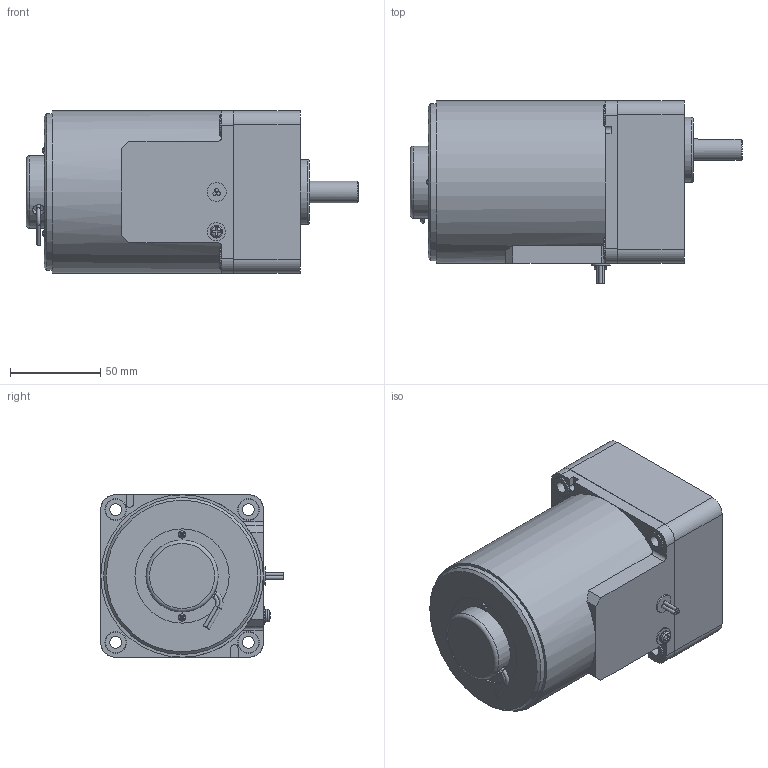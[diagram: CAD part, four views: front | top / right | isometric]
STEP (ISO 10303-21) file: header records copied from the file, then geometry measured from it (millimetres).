
FILE_DESCRIPTION( ( 'STEP AP203' ), '1' );
FILE_NAME( 'p:/temp/worker_1/temp/exporttempdir_2868_1114_nz7nL/format_0/M91X40GV4Y+MX9G25B.stp', '2020-01-17T01:42:45', ( '' ), ( '' ), ' ', 'PARTsolutions', ' ' );
FILE_SCHEMA( ( 'CONFIG_CONTROL_DESIGN' ) );
Length unit declared in the file: millimetre
Products named in the file (5): M91X40GV4Y+MX9G25B; _SGS-Speed Con GS1-90-40--Motor; _Worm shaft-90-40--Shaft; _NGS-Speed Con GS1-90-40-Cabel; _MX9G-2-NGS--Gear head
Assembly tree (4 placements, depth 2):
  M91X40GV4Y+MX9G25B
    _SGS-Speed Con GS1-90-40--Motor
    _Worm shaft-90-40--Shaft
    _NGS-Speed Con GS1-90-40-Cabel
    _MX9G-2-NGS--Gear head
Bounding box: 184 x 101 x 90 mm (x, y, z)
Volume: 892263.6 mm3; surface area: 91267.5 mm2
Topology: 4 solids, 4 shells, 177 faces, 415 edges, 270 vertices
Faces by surface type: plane 93, cylinder 59, torus 11, sphere 9, cone 3, bspline 2
Full cylindrical faces by diameter (mm): 2 x3, 4 x2, 6.5 x5, 6.7 x1, 7 x4, 7.4 x1, 10 x1, 10.5 x1, 12 x5, 26.64 x1, 36 x1, 40 x1, 52.2 x1, 70 x1, 83 x1, 86 x1, 87 x1, 90 x1
Entity records: 5221 total; most frequent: CARTESIAN_POINT 1065, DIRECTION 881, ORIENTED_EDGE 726, EDGE_CURVE 363, AXIS2_PLACEMENT_3D 360, VERTEX_POINT 262, EDGE_LOOP 261, FACE_OUTER_BOUND 219
